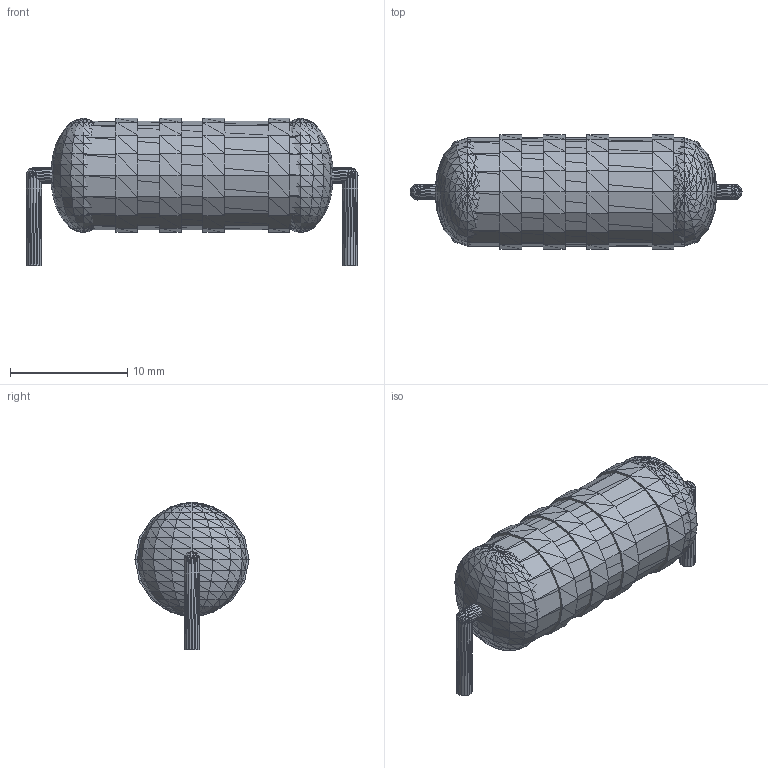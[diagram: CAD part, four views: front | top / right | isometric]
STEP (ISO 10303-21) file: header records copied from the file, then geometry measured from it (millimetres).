
FILE_DESCRIPTION(('HOOPS Exchange Step'),'2;1');
FILE_NAME('***.stp');
FILE_SCHEMA( ('AP242_MANAGED_MODEL_BASED_3D_ENGINEERING_MIM_LF {1 0 10303 442 1 1 4 }') );
Length unit declared in the file: inch
Products named in the file (8): R_5W_1K_2; R_5W_1K_3; R_5W_1K_4; R_5W_1K_5; R_5W_1K_6; R_5W_1K_7; R_5W_1K_8; R_5W_1K
Assembly tree (7 placements, depth 2):
  R_5W_1K
    R_5W_1K_2
    R_5W_1K_3
    R_5W_1K_4
    R_5W_1K_5
    R_5W_1K_6
    R_5W_1K_7
    R_5W_1K_8
Bounding box: 28.31 x 9.73 x 12.56 mm (x, y, z)
Volume: 1773.9 mm3; surface area: 1985.7 mm2
Topology: 9 solids, 13 shells, 2496 faces, 3744 edges, 1274 vertices
Faces by surface type: plane 2496
Entity records: 49100 total; most frequent: DIRECTION 8768, CARTESIAN_POINT 7530, ORIENTED_EDGE 7488, VECTOR 3744, LINE 3744, EDGE_CURVE 3744, AXIS2_PLACEMENT_3D 2512, PLANE 2496
